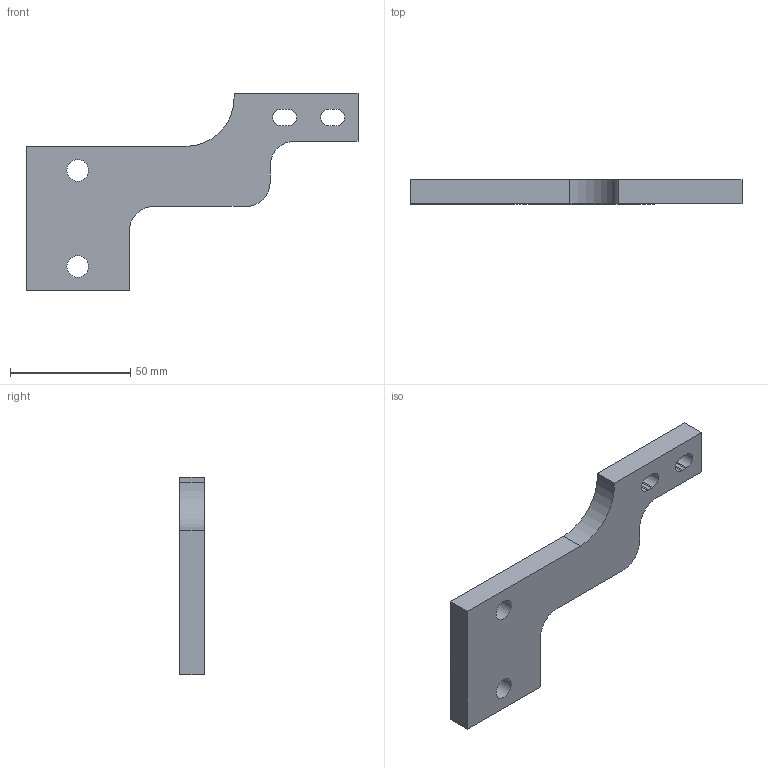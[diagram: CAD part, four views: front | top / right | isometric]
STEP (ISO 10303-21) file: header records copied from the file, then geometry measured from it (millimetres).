
FILE_DESCRIPTION(/* description */ (''),/* implementation_level */ '2;1');
FILE_NAME(/* name */ 'SYSTEM_SUPPORT_38.stp',/* time_stamp */ '2017-12-06T14:36:32+01:00',/* author */ (''),/* organization */ (''),/* preprocessor_version */ 'ST-DEVELOPER v16',/* originating_system */ 'SIEMENS PLM Software NX 10.0',/* authorisation */ '');
FILE_SCHEMA (('AP203_CONFIGURATION_CONTROLLED_3D_DESIGN_OF_MECHANICAL_PARTS_AND_ASSEMBLIES_MIM_LF { 1 0 10303 403 2 1 2}'));
Length unit declared in the file: millimetre
Products named in the file (1): turc1DB80072j4mm
Bounding box: 138 x 10 x 82 mm (x, y, z)
Volume: 49658.8 mm3; surface area: 15238.5 mm2
Topology: 1 solids, 1 shells, 34 faces, 96 edges, 64 vertices
Faces by surface type: plane 20, cylinder 14
Full cylindrical faces by diameter (mm): 9 x2
Entity records: 1206 total; most frequent: CARTESIAN_POINT 193, DIRECTION 192, ORIENTED_EDGE 188, EDGE_CURVE 94, LINE 66, VECTOR 66, VERTEX_POINT 64, AXIS2_PLACEMENT_3D 63
